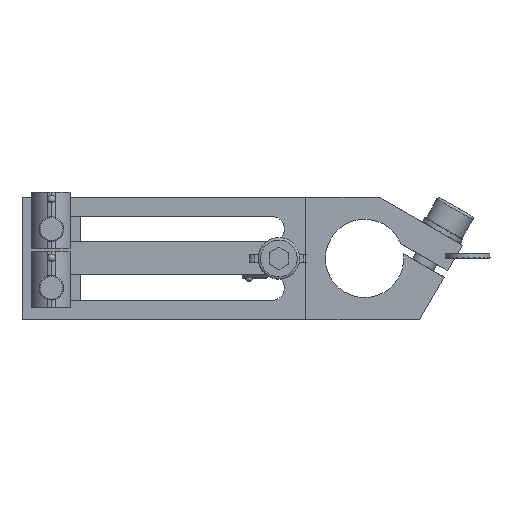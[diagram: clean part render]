
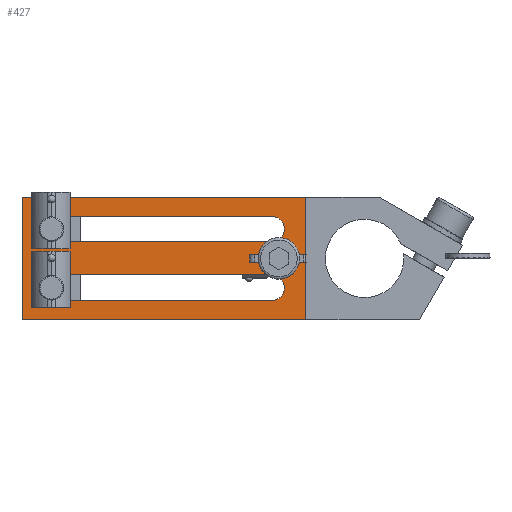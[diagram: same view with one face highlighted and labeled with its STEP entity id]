
A CAD part, left-side view. The second image highlights one B-rep face of the part: STEP entity #427.
In plain terms, the highlighted planar face has unit normal (-1, 0, 0).
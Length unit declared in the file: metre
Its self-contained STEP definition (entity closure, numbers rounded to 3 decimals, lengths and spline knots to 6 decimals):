
#427 = ADVANCED_FACE( '', ( #925, #926, #927 ), #928, .T. );
#925 = FACE_BOUND( '', #1503, .T. );
#926 = FACE_BOUND( '', #1504, .T. );
#927 = FACE_OUTER_BOUND( '', #1505, .T. );
#928 = PLANE( '', #1506 );
#1503 = EDGE_LOOP( '', ( #3555, #3556, #3557, #3558 ) );
#1504 = EDGE_LOOP( '', ( #3559, #3560, #3561, #3562 ) );
#1505 = EDGE_LOOP( '', ( #3563, #3564, #3565, #3566 ) );
#1506 = AXIS2_PLACEMENT_3D( '', #3567, #3568, #3569 );
#3555 = ORIENTED_EDGE( '', *, *, #4612, .F. );
#3556 = ORIENTED_EDGE( '', *, *, #4614, .T. );
#3557 = ORIENTED_EDGE( '', *, *, #4618, .F. );
#3558 = ORIENTED_EDGE( '', *, *, #4619, .T. );
#3559 = ORIENTED_EDGE( '', *, *, #4620, .F. );
#3560 = ORIENTED_EDGE( '', *, *, #4621, .F. );
#3561 = ORIENTED_EDGE( '', *, *, #4622, .F. );
#3562 = ORIENTED_EDGE( '', *, *, #4615, .F. );
#3563 = ORIENTED_EDGE( '', *, *, #4623, .F. );
#3564 = ORIENTED_EDGE( '', *, *, #4624, .F. );
#3565 = ORIENTED_EDGE( '', *, *, #4625, .F. );
#3566 = ORIENTED_EDGE( '', *, *, #4606, .F. );
#3567 = CARTESIAN_POINT( '', ( -0.006, -0.0055, 0.0355 ) );
#3568 = DIRECTION( '', ( -1., 0., 0. ) );
#3569 = DIRECTION( '', ( 0., -1., 0. ) );
#4606 = EDGE_CURVE( '', #5774, #5776, #5777, .T. );
#4612 = EDGE_CURVE( '', #5785, #5783, #5787, .T. );
#4614 = EDGE_CURVE( '', #5785, #5788, #5790, .T. );
#4615 = EDGE_CURVE( '', #5791, #5792, #5793, .T. );
#4618 = EDGE_CURVE( '', #5796, #5788, #5797, .T. );
#4619 = EDGE_CURVE( '', #5796, #5783, #5798, .T. );
#4620 = EDGE_CURVE( '', #5799, #5791, #5800, .T. );
#4621 = EDGE_CURVE( '', #5801, #5799, #5802, .T. );
#4622 = EDGE_CURVE( '', #5792, #5801, #5803, .T. );
#4623 = EDGE_CURVE( '', #5804, #5774, #5805, .T. );
#4624 = EDGE_CURVE( '', #5806, #5804, #5807, .T. );
#4625 = EDGE_CURVE( '', #5776, #5806, #5808, .T. );
#5774 = VERTEX_POINT( '', #7444 );
#5776 = VERTEX_POINT( '', #7447 );
#5777 = LINE( '', #7448, #7449 );
#5783 = VERTEX_POINT( '', #7458 );
#5785 = VERTEX_POINT( '', #7461 );
#5787 = CIRCLE( '', #7464, 0.002625 );
#5788 = VERTEX_POINT( '', #7465 );
#5790 = LINE( '', #7468, #7469 );
#5791 = VERTEX_POINT( '', #7470 );
#5792 = VERTEX_POINT( '', #7471 );
#5793 = LINE( '', #7472, #7473 );
#5796 = VERTEX_POINT( '', #7478 );
#5797 = CIRCLE( '', #7479, 0.002625 );
#5798 = LINE( '', #7480, #7481 );
#5799 = VERTEX_POINT( '', #7482 );
#5800 = CIRCLE( '', #7483, 0.002625 );
#5801 = VERTEX_POINT( '', #7484 );
#5802 = LINE( '', #7485, #7486 );
#5803 = CIRCLE( '', #7487, 0.002625 );
#5804 = VERTEX_POINT( '', #7488 );
#5805 = LINE( '', #7489, #7490 );
#5806 = VERTEX_POINT( '', #7491 );
#5807 = LINE( '', #7492, #7493 );
#5808 = LINE( '', #7494, #7495 );
#7444 = CARTESIAN_POINT( '', ( -0.006, 0.0525, 0.0125 ) );
#7447 = CARTESIAN_POINT( '', ( -0.006, -0.0055, 0.0125 ) );
#7448 = CARTESIAN_POINT( '', ( -0.006, 0.0525, 0.0125 ) );
#7449 = VECTOR( '', #8871, 1. );
#7458 = CARTESIAN_POINT( '', ( -0.006, 0.0015, -0.003375 ) );
#7461 = CARTESIAN_POINT( '', ( -0.006, 0.0015, -0.008625 ) );
#7464 = AXIS2_PLACEMENT_3D( '', #8877, #8878, #8879 );
#7465 = CARTESIAN_POINT( '', ( -0.006, 0.0465, -0.008625 ) );
#7468 = CARTESIAN_POINT( '', ( -0.006, -0.0055, -0.008625 ) );
#7469 = VECTOR( '', #8881, 1. );
#7470 = CARTESIAN_POINT( '', ( -0.006, 0.0465, 0.003375 ) );
#7471 = CARTESIAN_POINT( '', ( -0.006, 0.0015, 0.003375 ) );
#7472 = CARTESIAN_POINT( '', ( -0.006, -0.0055, 0.003375 ) );
#7473 = VECTOR( '', #8882, 1. );
#7478 = CARTESIAN_POINT( '', ( -0.006, 0.0465, -0.003375 ) );
#7479 = AXIS2_PLACEMENT_3D( '', #8885, #8886, #8887 );
#7480 = CARTESIAN_POINT( '', ( -0.006, -0.0055, -0.003375 ) );
#7481 = VECTOR( '', #8888, 1. );
#7482 = CARTESIAN_POINT( '', ( -0.006, 0.0465, 0.008625 ) );
#7483 = AXIS2_PLACEMENT_3D( '', #8889, #8890, #8891 );
#7484 = CARTESIAN_POINT( '', ( -0.006, 0.0015, 0.008625 ) );
#7485 = CARTESIAN_POINT( '', ( -0.006, -0.0055, 0.008625 ) );
#7486 = VECTOR( '', #8892, 1. );
#7487 = AXIS2_PLACEMENT_3D( '', #8893, #8894, #8895 );
#7488 = CARTESIAN_POINT( '', ( -0.006, 0.0525, -0.0125 ) );
#7489 = CARTESIAN_POINT( '', ( -0.006, 0.0525, -0.0125 ) );
#7490 = VECTOR( '', #8896, 1. );
#7491 = CARTESIAN_POINT( '', ( -0.006, -0.0055, -0.0125 ) );
#7492 = CARTESIAN_POINT( '', ( -0.006, -0.0055, -0.0125 ) );
#7493 = VECTOR( '', #8897, 1. );
#7494 = CARTESIAN_POINT( '', ( -0.006, -0.0055, 0.0355 ) );
#7495 = VECTOR( '', #8898, 1. );
#8871 = DIRECTION( '', ( 0., -1., 0. ) );
#8877 = CARTESIAN_POINT( '', ( -0.006, 0.0015, -0.006 ) );
#8878 = DIRECTION( '', ( -1., 0., 0. ) );
#8879 = DIRECTION( '', ( 0., -1., 0. ) );
#8881 = DIRECTION( '', ( 0., 1., 0. ) );
#8882 = DIRECTION( '', ( 0., -1., 0. ) );
#8885 = CARTESIAN_POINT( '', ( -0.006, 0.0465, -0.006 ) );
#8886 = DIRECTION( '', ( -1., 0., 0. ) );
#8887 = DIRECTION( '', ( 0., -1., 0. ) );
#8888 = DIRECTION( '', ( 0., -1., 0. ) );
#8889 = CARTESIAN_POINT( '', ( -0.006, 0.0465, 0.006 ) );
#8890 = DIRECTION( '', ( -1., 0., 0. ) );
#8891 = DIRECTION( '', ( 0., -1., 0. ) );
#8892 = DIRECTION( '', ( 0., 1., 0. ) );
#8893 = CARTESIAN_POINT( '', ( -0.006, 0.0015, 0.006 ) );
#8894 = DIRECTION( '', ( -1., 0., 0. ) );
#8895 = DIRECTION( '', ( 0., -1., 0. ) );
#8896 = DIRECTION( '', ( 0., 0., 1. ) );
#8897 = DIRECTION( '', ( 0., 1., 0. ) );
#8898 = DIRECTION( '', ( 0., 0., -1. ) );
